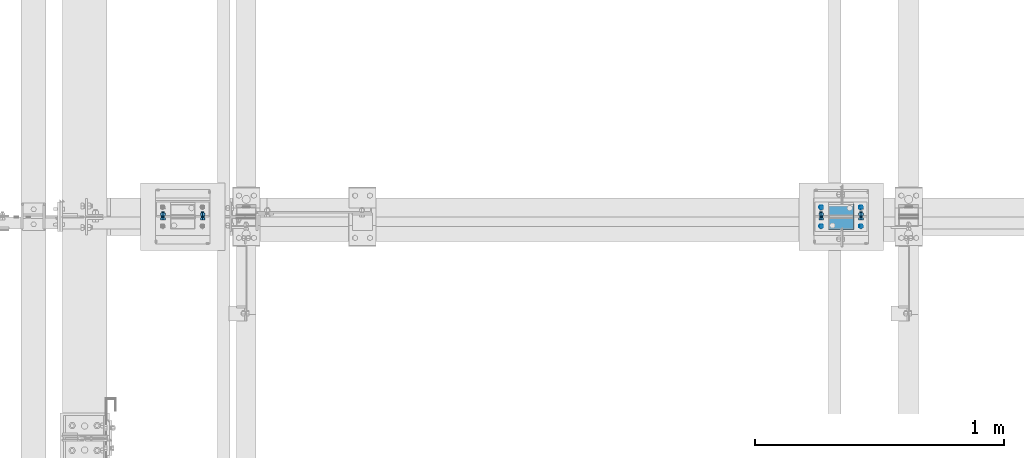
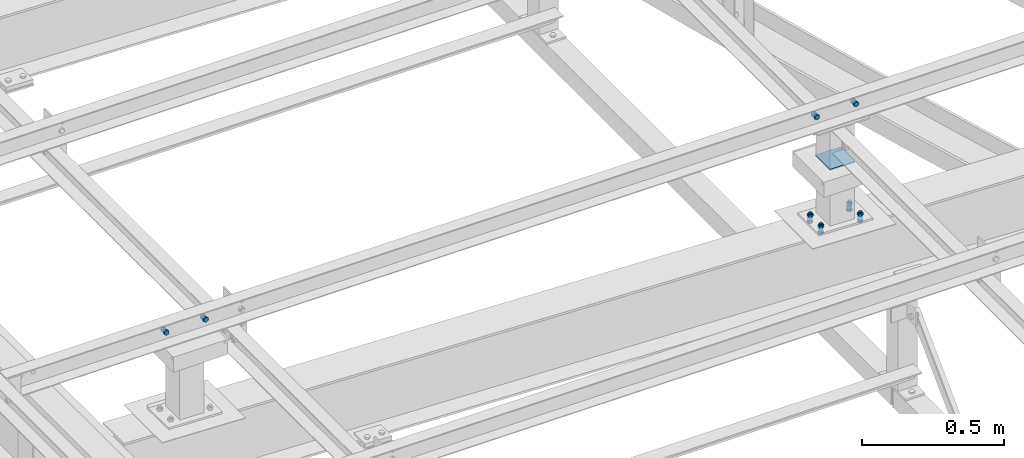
# One storey, part 46 of 3134: 5 mechanical fasteners, 4 elements without a shape of their own.
"""IFC2X3 building model written with IfcOpenShell, lengths in millimetres."""

from ifc_helpers import new_model, si_unit, frame, origin_with_axes, place, context, subcontext, project, spatial, faceted_brep, source, transform, mapped, material, type_object, element, aggregate, save


model = new_model("IFC2X3")

# Units and contexts
model_context = context("Model", 3, precision=1e-05, world=origin_with_axes())
body_context = subcontext(model_context, "Body", "Model", "MODEL_VIEW")
ifc_project = project(units=[si_unit("LENGTHUNIT", "METRE", prefix="MILLI"), si_unit("AREAUNIT", "SQUARE_METRE"), si_unit("VOLUMEUNIT", "CUBIC_METRE"), si_unit("MASSUNIT", "GRAM", prefix="KILO"), si_unit("TIMEUNIT", "SECOND"), si_unit("PLANEANGLEUNIT", "RADIAN"), si_unit("SOLIDANGLEUNIT", "STERADIAN"), si_unit("THERMODYNAMICTEMPERATUREUNIT", "DEGREE_CELSIUS"), si_unit("LUMINOUSINTENSITYUNIT", "LUMEN")], contexts=[model_context])

# Site, building, storey
site_placement = place(None, origin_with_axes())
site = spatial("IfcSite", under=ifc_project, at=site_placement, CompositionType="ELEMENT")
building_placement = place(site_placement, origin_with_axes())
building = spatial("IfcBuilding", under=site, at=building_placement, Name="Undefined", CompositionType="ELEMENT")
storey_placement = place(building_placement, origin_with_axes())
storey = spatial("IfcBuildingStorey", under=building, at=storey_placement, Name="Undefined", CompositionType="ELEMENT", Elevation=0.0)

# Assembly, mechanical fastener
assembly_1_placement = place(storey_placement, origin_with_axes())
assembly_1 = element("IfcElementAssembly", 1, at=assembly_1_placement, inside=storey, AssemblyPlace="NOTDEFINED", PredefinedType="RIGID_FRAME")
ifc_material_1 = material(Name="8.8")
mechanical_fastener_type = type_object("IfcMechanicalFastenerType", Name="Bolt assembly")
shared_shape_1 = source(origin_with_axes(), body_context, "Body", "Brep", [
    faceted_brep([(10.9696551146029, -4.1972538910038, 0.0), (5.48482755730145, -4.1972538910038, 9.5), (-5.48482755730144, -4.1972538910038, 9.5), (-10.9696551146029, -4.1972538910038, 1.34339530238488e-15), (-5.48482755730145, -4.1972538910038, -9.5), (5.48482755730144, -4.1972538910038, -9.50000000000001), (5.48482755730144, 3.8027461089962, -9.50000000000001), (-5.48482755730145, 3.8027461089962, -9.5), (-10.9696551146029, 3.8027461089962, 1.34339530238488e-15), (-5.48482755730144, 3.8027461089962, 9.5), (5.48482755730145, 3.8027461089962, 9.5), (10.9696551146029, 3.8027461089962, 0.0), (6.0, 3.8027461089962, 0.0), (5.19615242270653, 3.8027461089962, 3.00000000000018), (2.99999999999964, 3.8027461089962, 5.19615242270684), (-6.21801588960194e-13, 3.8027461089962, 6.0), (-3.00000000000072, 3.8027461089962, 5.19615242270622), (-5.19615242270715, 3.8027461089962, 2.9999999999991), (-6.0, 3.8027461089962, -1.24360317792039e-12), (-5.19615242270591, 3.8027461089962, -3.00000000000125), (-2.99999999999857, 3.8027461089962, -5.19615242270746), (1.85874342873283e-12, 3.8027461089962, -6.0), (3.00000000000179, 3.8027461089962, -5.1961524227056), (5.19615242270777, 3.8027461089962, -2.99999999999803), (5.19615242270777, 38.8027461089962, -2.99999999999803), (3.00000000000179, 38.8027461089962, -5.1961524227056), (1.85874342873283e-12, 38.8027461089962, -6.0), (-2.99999999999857, 38.8027461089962, -5.19615242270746), (-5.19615242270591, 38.8027461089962, -3.00000000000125), (-6.0, 38.8027461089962, -1.24360317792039e-12), (-5.19615242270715, 38.8027461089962, 2.9999999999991), (-3.00000000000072, 38.8027461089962, 5.19615242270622), (-6.21801588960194e-13, 38.8027461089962, 6.0), (2.99999999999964, 38.8027461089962, 5.19615242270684), (5.19615242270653, 38.8027461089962, 3.00000000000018), (6.0, 38.8027461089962, 0.0), (10.9696551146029, 23.0139082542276, 0.0), (5.48482755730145, 23.0139082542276, 9.5), (-5.48482755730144, 23.0139082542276, 9.5), (-10.9696551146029, 23.0139082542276, 1.34339530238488e-15), (-5.48482755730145, 23.0139082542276, -9.5), (5.48482755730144, 23.0139082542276, -9.50000000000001), (5.48482755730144, 33.0139082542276, -9.50000000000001), (-5.48482755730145, 33.0139082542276, -9.5), (-10.9696551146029, 33.0139082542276, 1.34339530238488e-15), (-5.48482755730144, 33.0139082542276, 9.5), (5.48482755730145, 33.0139082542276, 9.5), (10.9696551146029, 33.0139082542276, 0.0)], [[[0, 1, 2, 3, 4, 5]], [[6, 7, 8, 9, 10, 11]], [[0, 11, 10, 1]], [[1, 10, 9, 2]], [[2, 9, 8, 3]], [[3, 8, 7, 4]], [[4, 7, 6, 5]], [[5, 6, 11, 0]], [[12, 13, 14, 15, 16, 17, 18, 19, 20, 21, 22, 23]], [[24, 25, 26, 27, 28, 29, 30, 31, 32, 33, 34, 35]], [[12, 35, 34, 13]], [[13, 34, 33, 14]], [[14, 33, 32, 15]], [[15, 32, 31, 16]], [[16, 31, 30, 17]], [[17, 30, 29, 18]], [[18, 29, 28, 19]], [[19, 28, 27, 20]], [[20, 27, 26, 21]], [[21, 26, 25, 22]], [[22, 25, 24, 23]], [[23, 24, 35, 12]], [[36, 37, 38, 39, 40, 41]], [[42, 43, 44, 45, 46, 47]], [[36, 47, 46, 37]], [[37, 46, 45, 38]], [[38, 45, 44, 39]], [[39, 44, 43, 40]], [[40, 43, 42, 41]], [[41, 42, 47, 36]]]),
    faceted_brep([(7.0, 3.9027461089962, 0.0), (6.06217782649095, 3.9027461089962, 3.50000000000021), (3.49999999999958, 3.9027461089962, 6.06217782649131), (-7.25435187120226e-13, 3.9027461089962, 7.0), (-3.50000000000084, 3.9027461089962, 6.06217782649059), (-6.06217782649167, 3.9027461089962, 3.49999999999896), (-7.0, 3.9027461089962, -1.45087037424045e-12), (-6.06217782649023, 3.9027461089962, -3.50000000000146), (-3.49999999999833, 3.9027461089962, -6.06217782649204), (2.1685340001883e-12, 3.9027461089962, -7.0), (3.50000000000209, 3.9027461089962, -6.06217782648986), (6.0621778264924, 3.9027461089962, -3.4999999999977), (6.0621778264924, 13.1027459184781, -3.4999999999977), (3.50000000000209, 13.1027459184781, -6.06217782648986), (2.1685340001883e-12, 13.1027459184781, -7.0), (-3.49999999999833, 13.1027459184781, -6.06217782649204), (-6.06217782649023, 13.1027459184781, -3.50000000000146), (-7.0, 13.1027459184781, -1.45087037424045e-12), (-6.06217782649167, 13.1027459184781, 3.49999999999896), (-3.50000000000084, 13.1027459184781, 6.06217782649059), (-7.25435187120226e-13, 13.1027459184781, 7.0), (3.49999999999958, 13.1027459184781, 6.06217782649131), (6.06217782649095, 13.1027459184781, 3.50000000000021), (7.0, 13.1027459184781, 0.0), (7.0, 14.9139082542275, 0.0), (6.06217782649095, 14.9139082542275, 3.50000000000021), (3.49999999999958, 14.9139082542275, 6.06217782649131), (-7.25435187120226e-13, 14.9139082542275, 7.0), (-3.50000000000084, 14.9139082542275, 6.06217782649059), (-6.06217782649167, 14.9139082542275, 3.49999999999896), (-7.0, 14.9139082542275, -1.45087037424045e-12), (-6.06217782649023, 14.9139082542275, -3.50000000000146), (-3.49999999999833, 14.9139082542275, -6.06217782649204), (2.1685340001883e-12, 14.9139082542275, -7.0), (3.50000000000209, 14.9139082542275, -6.06217782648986), (6.0621778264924, 14.9139082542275, -3.4999999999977), (6.0621778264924, 23.0139082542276, -3.4999999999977), (3.50000000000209, 23.0139082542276, -6.06217782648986), (2.1685340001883e-12, 23.0139082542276, -7.0), (-3.49999999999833, 23.0139082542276, -6.06217782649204), (-6.06217782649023, 23.0139082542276, -3.50000000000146), (-7.0, 23.0139082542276, -1.45087037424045e-12), (-6.06217782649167, 23.0139082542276, 3.49999999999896), (-3.50000000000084, 23.0139082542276, 6.06217782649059), (-7.25435187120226e-13, 23.0139082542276, 7.0), (3.49999999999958, 23.0139082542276, 6.06217782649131), (6.06217782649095, 23.0139082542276, 3.50000000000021), (7.0, 23.0139082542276, 0.0)], [[[0, 1, 2, 3, 4, 5, 6, 7, 8, 9, 10, 11]], [[12, 13, 14, 15, 16, 17, 18, 19, 20, 21, 22, 23]], [[0, 23, 22, 1]], [[1, 22, 21, 2]], [[2, 21, 20, 3]], [[3, 20, 19, 4]], [[4, 19, 18, 5]], [[5, 18, 17, 6]], [[6, 17, 16, 7]], [[7, 16, 15, 8]], [[8, 15, 14, 9]], [[9, 14, 13, 10]], [[10, 13, 12, 11]], [[11, 12, 23, 0]], [[24, 25, 26, 27, 28, 29, 30, 31, 32, 33, 34, 35]], [[36, 37, 38, 39, 40, 41, 42, 43, 44, 45, 46, 47]], [[24, 47, 46, 25]], [[25, 46, 45, 26]], [[26, 45, 44, 27]], [[27, 44, 43, 28]], [[28, 43, 42, 29]], [[29, 42, 41, 30]], [[30, 41, 40, 31]], [[31, 40, 39, 32]], [[32, 39, 38, 33]], [[33, 38, 37, 34]], [[34, 37, 36, 35]], [[35, 36, 47, 24]]]),
])
mechanical_fastener_1_placement = place(assembly_1_placement, frame((3042.5231765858, 19487.9999999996, 3920.50000668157), z_axis=(-0.999387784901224, 0.0, 0.0349865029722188), x_axis=(0.0, -1.0, 0.0)))
mechanical_fastener_1 = element("IfcMechanicalFastener", 2, at=mechanical_fastener_1_placement, type_object=mechanical_fastener_type, material=ifc_material_1, Name="Bolt assembly", NominalDiameter=12.0, NominalLength=35.0, context=body_context, shape_type="MappedRepresentation", body=[
    mapped(shared_shape_1, transform((0.0, -5.32963895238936e-10, -79.9999999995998))),
    mapped(shared_shape_1, transform((76.0, -5.32963895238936e-10, -79.9999999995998))),
    mapped(shared_shape_1, transform((0.0, 5.3114490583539e-10, 79.9999999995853))),
    mapped(shared_shape_1, transform((76.0, 5.3114490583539e-10, 79.9999999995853))),
])

assembly_2_placement = place(storey_placement, origin_with_axes())
assembly_2 = element("IfcElementAssembly", 3, at=assembly_2_placement, inside=storey, AssemblyPlace="NOTDEFINED", PredefinedType="RIGID_FRAME")
shared_shape_2 = source(origin_with_axes(), body_context, "Body", "Brep", [
    faceted_brep([(7.0, 13.0000253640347, 0.0), (6.06217782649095, 13.0000253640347, 3.50000000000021), (3.49999999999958, 13.0000253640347, 6.06217782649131), (-7.25435187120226e-13, 13.0000253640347, 7.0), (-3.50000000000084, 13.0000253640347, 6.06217782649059), (-6.06217782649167, 13.0000253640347, 3.49999999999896), (-7.0, 13.0000253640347, -1.45087037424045e-12), (-6.06217782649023, 13.0000253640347, -3.50000000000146), (-3.49999999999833, 13.0000253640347, -6.06217782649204), (2.1685340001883e-12, 13.0000253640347, -7.0), (3.50000000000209, 13.0000253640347, -6.06217782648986), (6.0621778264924, 13.0000253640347, -3.4999999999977), (6.0621778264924, 15.0999999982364, -3.4999999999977), (3.50000000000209, 15.0999999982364, -6.06217782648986), (2.1685340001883e-12, 15.0999999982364, -7.0), (-3.49999999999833, 15.0999999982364, -6.06217782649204), (-6.06217782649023, 15.0999999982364, -3.50000000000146), (-7.0, 15.0999999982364, -1.45087037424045e-12), (-6.06217782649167, 15.0999999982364, 3.49999999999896), (-3.50000000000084, 15.0999999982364, 6.06217782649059), (-7.25435187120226e-13, 15.0999999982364, 7.0), (3.49999999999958, 15.0999999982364, 6.06217782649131), (6.06217782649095, 15.0999999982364, 3.50000000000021), (7.0, 15.0999999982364, 0.0)], [[[0, 1, 2, 3, 4, 5, 6, 7, 8, 9, 10, 11]], [[12, 13, 14, 15, 16, 17, 18, 19, 20, 21, 22, 23]], [[0, 23, 22, 1]], [[1, 22, 21, 2]], [[2, 21, 20, 3]], [[3, 20, 19, 4]], [[4, 19, 18, 5]], [[5, 18, 17, 6]], [[6, 17, 16, 7]], [[7, 16, 15, 8]], [[8, 15, 14, 9]], [[9, 14, 13, 10]], [[10, 13, 12, 11]], [[11, 12, 23, 0]]]),
])
mechanical_fastener_2_placement = place(assembly_2_placement, frame((3042.5231765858, 19487.9999999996, 3920.50000668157), z_axis=(-0.999387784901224, 0.0, 0.0349865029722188), x_axis=(0.0, -1.0, 0.0)))
mechanical_fastener_2 = element("IfcMechanicalFastener", 4, at=mechanical_fastener_2_placement, type_object=mechanical_fastener_type, material=ifc_material_1, Name="Bolt assembly", NominalDiameter=12.0, NominalLength=2.0, context=body_context, shape_type="MappedRepresentation", body=[
    mapped(shared_shape_2, transform((0.0, -5.32963895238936e-10, -79.9999999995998))),
    mapped(shared_shape_2, transform((76.0, -5.32963895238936e-10, -79.9999999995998))),
    mapped(shared_shape_2, transform((0.0, 5.3114490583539e-10, 79.9999999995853))),
    mapped(shared_shape_2, transform((76.0, 5.3114490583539e-10, 79.9999999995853))),
])
aggregate(assembly_2, [mechanical_fastener_2])

# Mechanical fastener
ifc_material_2 = material(Name="6.8")
shared_shape_3 = source(origin_with_axes(), body_context, "Body", "Brep", [
    faceted_brep([(51.5, 1.36424205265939e-12, 50.0), (51.3858192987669, 1.36424205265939e-12, 50.5740251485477), (51.0606601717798, 1.36424205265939e-12, 51.0606601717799), (50.5740251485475, 1.36424205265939e-12, 51.385819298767), (-50.0000000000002, 1.36424205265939e-12, 51.5), (-50.7500000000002, 1.36424205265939e-12, 51.2990381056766), (-51.2990381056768, 1.36424205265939e-12, 50.7499999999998), (-51.5, 1.36424205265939e-12, 49.9999999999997), (-51.5, 1.36424205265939e-12, -50.0000000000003), (-51.2990381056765, 1.36424205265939e-12, -50.7500000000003), (-50.7499999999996, 1.36424205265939e-12, -51.2990381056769), (-49.9999999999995, 1.36424205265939e-12, -51.5), (50.0000000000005, 1.36424205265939e-12, -51.5), (50.7500000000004, 1.36424205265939e-12, -51.2990381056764), (51.2990381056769, 1.36424205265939e-12, -50.7499999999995), (51.5, 1.36424205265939e-12, -49.9999999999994), (51.5, 5.10000000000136, -49.9999999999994), (51.2990381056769, 5.10000000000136, -50.7499999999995), (50.7500000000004, 5.10000000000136, -51.2990381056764), (50.0000000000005, 5.10000000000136, -51.5), (-49.9999999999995, 5.10000000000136, -51.5), (-50.7499999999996, 5.10000000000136, -51.2990381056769), (-51.2990381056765, 5.10000000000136, -50.7500000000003), (-51.5, 5.10000000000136, -50.0000000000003), (-51.5, 5.10000000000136, 49.9999999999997), (-51.2990381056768, 5.10000000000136, 50.7499999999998), (-50.7500000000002, 5.10000000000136, 51.2990381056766), (-50.0000000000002, 5.10000000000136, 51.5), (50.5740251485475, 5.10000000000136, 51.385819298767), (51.0606601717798, 5.10000000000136, 51.0606601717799), (51.3858192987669, 5.10000000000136, 50.5740251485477), (51.5, 5.10000000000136, 50.0)], [[[0, 1, 2, 3, 4, 5, 6, 7, 8, 9, 10, 11, 12, 13, 14, 15]], [[16, 17, 18, 19, 20, 21, 22, 23, 24, 25, 26, 27, 28, 29, 30, 31]], [[0, 31, 30, 1]], [[1, 30, 29, 2]], [[2, 29, 28, 3]], [[3, 28, 27, 4]], [[4, 27, 26, 5]], [[5, 26, 25, 6]], [[6, 25, 24, 7]], [[7, 24, 23, 8]], [[8, 23, 22, 9]], [[9, 22, 21, 10]], [[10, 21, 20, 11]], [[11, 20, 19, 12]], [[12, 19, 18, 13]], [[13, 18, 17, 14]], [[14, 17, 16, 15]], [[15, 16, 31, 0]]]),
])
mechanical_fastener_3_placement = place(assembly_1_placement, frame((3043.33, 19450.0, 4190.29), z_axis=(0.0, -1.0, 0.0), x_axis=(-1.0, 0.0, 0.0)))
mechanical_fastener_3 = element("IfcMechanicalFastener", 5, at=mechanical_fastener_3_placement, type_object=mechanical_fastener_type, material=ifc_material_2, Name="Bolt assembly", NominalDiameter=10.0, NominalLength=5.0, context=body_context, shape_type="MappedRepresentation", body=[
    mapped(shared_shape_3, transform((0.0, 0.0, 0.0))),
])

aggregate(assembly_1, [mechanical_fastener_1, mechanical_fastener_3])

# Assembly, mechanical fastener
assembly_3_placement = place(storey_placement, origin_with_axes())
assembly_3 = element("IfcElementAssembly", 6, at=assembly_3_placement, inside=storey, AssemblyPlace="NOTDEFINED", PredefinedType="RIGID_FRAME")
shared_shape_4 = source(origin_with_axes(), body_context, "Body", "Brep", [
    faceted_brep([(10.9696551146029, -12.0, 0.0), (5.48482755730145, -12.0, 9.5), (-5.48482755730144, -12.0, 9.5), (-10.9696551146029, -12.0, 1.34339530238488e-15), (-5.48482755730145, -12.0, -9.5), (5.48482755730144, -12.0, -9.50000000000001), (5.48482755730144, -4.0, -9.50000000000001), (-5.48482755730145, -4.0, -9.5), (-10.9696551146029, -4.0, 1.34339530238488e-15), (-5.48482755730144, -4.0, 9.5), (5.48482755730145, -4.0, 9.5), (10.9696551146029, -4.0, 0.0), (6.0, -4.0, 0.0), (5.19615242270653, -4.0, 3.00000000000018), (2.99999999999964, -4.0, 5.19615242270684), (-6.21801588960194e-13, -4.0, 6.0), (-3.00000000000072, -4.0, 5.19615242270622), (-5.19615242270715, -4.0, 2.9999999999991), (-6.0, -4.0, -1.24360317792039e-12), (-5.19615242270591, -4.0, -3.00000000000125), (-2.99999999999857, -4.0, -5.19615242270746), (1.85874342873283e-12, -4.0, -6.0), (3.00000000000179, -4.0, -5.1961524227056), (5.19615242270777, -4.0, -2.99999999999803), (5.19615242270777, 21.0, -2.99999999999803), (3.00000000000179, 21.0, -5.1961524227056), (1.85874342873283e-12, 21.0, -6.0), (-2.99999999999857, 21.0, -5.19615242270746), (-5.19615242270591, 21.0, -3.00000000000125), (-6.0, 21.0, -1.24360317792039e-12), (-5.19615242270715, 21.0, 2.9999999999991), (-3.00000000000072, 21.0, 5.19615242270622), (-6.21801588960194e-13, 21.0, 6.0), (2.99999999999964, 21.0, 5.19615242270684), (5.19615242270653, 21.0, 3.00000000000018), (6.0, 21.0, 0.0), (10.9696551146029, 6.00000000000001, 0.0), (5.48482755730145, 6.00000000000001, 9.5), (-5.48482755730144, 6.00000000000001, 9.5), (-10.9696551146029, 6.00000000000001, 1.34339530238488e-15), (-5.48482755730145, 6.00000000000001, -9.5), (5.48482755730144, 6.00000000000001, -9.50000000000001), (5.48482755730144, 16.0, -9.50000000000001), (-5.48482755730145, 16.0, -9.5), (-10.9696551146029, 16.0, 1.34339530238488e-15), (-5.48482755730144, 16.0, 9.5), (5.48482755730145, 16.0, 9.5), (10.9696551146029, 16.0, 0.0)], [[[0, 1, 2, 3, 4, 5]], [[6, 7, 8, 9, 10, 11]], [[0, 11, 10, 1]], [[1, 10, 9, 2]], [[2, 9, 8, 3]], [[3, 8, 7, 4]], [[4, 7, 6, 5]], [[5, 6, 11, 0]], [[12, 13, 14, 15, 16, 17, 18, 19, 20, 21, 22, 23]], [[24, 25, 26, 27, 28, 29, 30, 31, 32, 33, 34, 35]], [[12, 35, 34, 13]], [[13, 34, 33, 14]], [[14, 33, 32, 15]], [[15, 32, 31, 16]], [[16, 31, 30, 17]], [[17, 30, 29, 18]], [[18, 29, 28, 19]], [[19, 28, 27, 20]], [[20, 27, 26, 21]], [[21, 26, 25, 22]], [[22, 25, 24, 23]], [[23, 24, 35, 12]], [[36, 37, 38, 39, 40, 41]], [[42, 43, 44, 45, 46, 47]], [[36, 47, 46, 37]], [[37, 46, 45, 38]], [[38, 45, 44, 39]], [[39, 44, 43, 40]], [[40, 43, 42, 41]], [[41, 42, 47, 36]]]),
    faceted_brep([(7.0, -3.9, 0.0), (6.06217782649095, -3.9, 3.50000000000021), (3.49999999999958, -3.9, 6.06217782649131), (-7.25435187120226e-13, -3.9, 7.0), (-3.50000000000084, -3.9, 6.06217782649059), (-6.06217782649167, -3.9, 3.49999999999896), (-7.0, -3.9, -1.45087037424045e-12), (-6.06217782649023, -3.9, -3.50000000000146), (-3.49999999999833, -3.9, -6.06217782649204), (2.1685340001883e-12, -3.9, -7.0), (3.50000000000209, -3.9, -6.06217782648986), (6.0621778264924, -3.9, -3.4999999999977), (6.0621778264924, 0.0999999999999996, -3.4999999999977), (3.50000000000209, 0.0999999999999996, -6.06217782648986), (2.1685340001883e-12, 0.0999999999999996, -7.0), (-3.49999999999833, 0.0999999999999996, -6.06217782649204), (-6.06217782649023, 0.0999999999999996, -3.50000000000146), (-7.0, 0.0999999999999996, -1.45087037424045e-12), (-6.06217782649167, 0.0999999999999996, 3.49999999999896), (-3.50000000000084, 0.0999999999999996, 6.06217782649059), (-7.25435187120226e-13, 0.0999999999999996, 7.0), (3.49999999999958, 0.0999999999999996, 6.06217782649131), (6.06217782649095, 0.0999999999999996, 3.50000000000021), (7.0, 0.0999999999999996, 0.0), (7.0, -0.1, 0.0), (6.06217782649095, -0.1, 3.50000000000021), (3.49999999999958, -0.1, 6.06217782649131), (-7.25435187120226e-13, -0.1, 7.0), (-3.50000000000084, -0.1, 6.06217782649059), (-6.06217782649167, -0.1, 3.49999999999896), (-7.0, -0.1, -1.45087037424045e-12), (-6.06217782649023, -0.1, -3.50000000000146), (-3.49999999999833, -0.1, -6.06217782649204), (2.1685340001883e-12, -0.1, -7.0), (3.50000000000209, -0.1, -6.06217782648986), (6.0621778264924, -0.1, -3.4999999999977), (6.0621778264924, 6.00000000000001, -3.4999999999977), (3.50000000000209, 6.00000000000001, -6.06217782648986), (2.1685340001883e-12, 6.00000000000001, -7.0), (-3.49999999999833, 6.00000000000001, -6.06217782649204), (-6.06217782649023, 6.00000000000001, -3.50000000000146), (-7.0, 6.00000000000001, -1.45087037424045e-12), (-6.06217782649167, 6.00000000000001, 3.49999999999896), (-3.50000000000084, 6.00000000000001, 6.06217782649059), (-7.25435187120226e-13, 6.00000000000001, 7.0), (3.49999999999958, 6.00000000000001, 6.06217782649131), (6.06217782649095, 6.00000000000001, 3.50000000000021), (7.0, 6.00000000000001, 0.0)], [[[0, 1, 2, 3, 4, 5, 6, 7, 8, 9, 10, 11]], [[12, 13, 14, 15, 16, 17, 18, 19, 20, 21, 22, 23]], [[0, 23, 22, 1]], [[1, 22, 21, 2]], [[2, 21, 20, 3]], [[3, 20, 19, 4]], [[4, 19, 18, 5]], [[5, 18, 17, 6]], [[6, 17, 16, 7]], [[7, 16, 15, 8]], [[8, 15, 14, 9]], [[9, 14, 13, 10]], [[10, 13, 12, 11]], [[11, 12, 23, 0]], [[24, 25, 26, 27, 28, 29, 30, 31, 32, 33, 34, 35]], [[36, 37, 38, 39, 40, 41, 42, 43, 44, 45, 46, 47]], [[24, 47, 46, 25]], [[25, 46, 45, 26]], [[26, 45, 44, 27]], [[27, 44, 43, 28]], [[28, 43, 42, 29]], [[29, 42, 41, 30]], [[30, 41, 40, 31]], [[31, 40, 39, 32]], [[32, 39, 38, 33]], [[33, 38, 37, 34]], [[34, 37, 36, 35]], [[35, 36, 47, 24]]]),
])
mechanical_fastener_4_placement = place(assembly_3_placement, frame((394.999950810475, 19449.999683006, 4400.0), z_axis=(1.0, 0.0, 0.0), x_axis=(0.0, 0.0, -1.0)))
mechanical_fastener_4 = element("IfcMechanicalFastener", 7, at=mechanical_fastener_4_placement, type_object=mechanical_fastener_type, material=ifc_material_1, Name="Bolt assembly", NominalDiameter=12.0, NominalLength=25.0, context=body_context, shape_type="MappedRepresentation", body=[
    mapped(shared_shape_4, transform((0.0, -5.32963895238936e-10, -79.9999999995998))),
    mapped(shared_shape_4, transform((0.0, 5.3114490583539e-10, 79.9999999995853))),
])
aggregate(assembly_3, [mechanical_fastener_4])

assembly_4_placement = place(storey_placement, origin_with_axes())
assembly_4 = element("IfcElementAssembly", 8, at=assembly_4_placement, inside=storey, AssemblyPlace="NOTDEFINED", PredefinedType="RIGID_FRAME")
shared_shape_5 = source(origin_with_axes(), body_context, "Body", "Brep", [
    faceted_brep([(10.9696551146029, -12.0003169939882, 0.0), (5.48482755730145, -12.0003169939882, 9.5), (-5.48482755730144, -12.0003169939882, 9.5), (-10.9696551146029, -12.0003169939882, 1.34339530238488e-15), (-5.48482755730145, -12.0003169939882, -9.5), (5.48482755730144, -12.0003169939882, -9.50000000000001), (5.48482755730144, -4.00031699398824, -9.50000000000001), (-5.48482755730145, -4.00031699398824, -9.5), (-10.9696551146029, -4.00031699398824, 1.34339530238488e-15), (-5.48482755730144, -4.00031699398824, 9.5), (5.48482755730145, -4.00031699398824, 9.5), (10.9696551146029, -4.00031699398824, 0.0), (6.0, -4.00031699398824, 0.0), (5.19615242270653, -4.00031699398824, 3.00000000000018), (2.99999999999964, -4.00031699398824, 5.19615242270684), (-6.21801588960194e-13, -4.00031699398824, 6.0), (-3.00000000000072, -4.00031699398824, 5.19615242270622), (-5.19615242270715, -4.00031699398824, 2.9999999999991), (-6.0, -4.00031699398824, -1.24360317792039e-12), (-5.19615242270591, -4.00031699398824, -3.00000000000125), (-2.99999999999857, -4.00031699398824, -5.19615242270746), (1.85874342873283e-12, -4.00031699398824, -6.0), (3.00000000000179, -4.00031699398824, -5.1961524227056), (5.19615242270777, -4.00031699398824, -2.99999999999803), (5.19615242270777, 20.9997148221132, -2.99999999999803), (3.00000000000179, 20.9997148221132, -5.1961524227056), (1.85874342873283e-12, 20.9997148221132, -6.0), (-2.99999999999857, 20.9997148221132, -5.19615242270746), (-5.19615242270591, 20.9997148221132, -3.00000000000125), (-6.0, 20.9997148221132, -1.24360317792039e-12), (-5.19615242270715, 20.9997148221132, 2.9999999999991), (-3.00000000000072, 20.9997148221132, 5.19615242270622), (-6.21801588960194e-13, 20.9997148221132, 6.0), (2.99999999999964, 20.9997148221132, 5.19615242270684), (5.19615242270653, 20.9997148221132, 3.00000000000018), (6.0, 20.9997148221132, 0.0), (10.9696551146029, 6.00000000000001, 0.0), (5.48482755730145, 6.00000000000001, 9.5), (-5.48482755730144, 6.00000000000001, 9.5), (-10.9696551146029, 6.00000000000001, 1.34339530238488e-15), (-5.48482755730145, 6.00000000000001, -9.5), (5.48482755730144, 6.00000000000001, -9.50000000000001), (5.48482755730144, 16.0, -9.50000000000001), (-5.48482755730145, 16.0, -9.5), (-10.9696551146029, 16.0, 1.34339530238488e-15), (-5.48482755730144, 16.0, 9.5), (5.48482755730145, 16.0, 9.5), (10.9696551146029, 16.0, 0.0)], [[[0, 1, 2, 3, 4, 5]], [[6, 7, 8, 9, 10, 11]], [[0, 11, 10, 1]], [[1, 10, 9, 2]], [[2, 9, 8, 3]], [[3, 8, 7, 4]], [[4, 7, 6, 5]], [[5, 6, 11, 0]], [[12, 13, 14, 15, 16, 17, 18, 19, 20, 21, 22, 23]], [[24, 25, 26, 27, 28, 29, 30, 31, 32, 33, 34, 35]], [[12, 35, 34, 13]], [[13, 34, 33, 14]], [[14, 33, 32, 15]], [[15, 32, 31, 16]], [[16, 31, 30, 17]], [[17, 30, 29, 18]], [[18, 29, 28, 19]], [[19, 28, 27, 20]], [[20, 27, 26, 21]], [[21, 26, 25, 22]], [[22, 25, 24, 23]], [[23, 24, 35, 12]], [[36, 37, 38, 39, 40, 41]], [[42, 43, 44, 45, 46, 47]], [[36, 47, 46, 37]], [[37, 46, 45, 38]], [[38, 45, 44, 39]], [[39, 44, 43, 40]], [[40, 43, 42, 41]], [[41, 42, 47, 36]]]),
    faceted_brep([(7.0, -3.90031233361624, 0.0), (6.06217782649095, -3.90027629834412, 3.50000000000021), (3.49999999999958, -3.90031233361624, 6.06217782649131), (-7.25435187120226e-13, -3.90027629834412, 7.0), (-3.50000000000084, -3.90027629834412, 6.06217782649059), (-6.06217782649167, -3.90027629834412, 3.49999999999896), (-7.0, -3.90031233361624, -1.45087037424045e-12), (-6.06217782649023, -3.90027629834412, -3.50000000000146), (-3.49999999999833, -3.90027629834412, -6.06217782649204), (2.1685340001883e-12, -3.90027629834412, -7.0), (3.50000000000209, -3.90027629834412, -6.06217782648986), (6.0621778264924, -3.90031233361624, -3.4999999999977), (6.0621778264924, 0.0996830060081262, -3.4999999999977), (3.50000000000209, 0.0996830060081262, -6.06217782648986), (2.1685340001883e-12, 0.0996830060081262, -7.0), (-3.49999999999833, 0.0996830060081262, -6.06217782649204), (-6.06217782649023, 0.0996830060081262, -3.50000000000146), (-7.0, 0.0996830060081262, -1.45087037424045e-12), (-6.06217782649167, 0.0997148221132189, 3.49999999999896), (-3.50000000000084, 0.0997148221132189, 6.06217782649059), (-7.25435187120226e-13, 0.0996830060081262, 7.0), (3.49999999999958, 0.0996830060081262, 6.06217782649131), (6.06217782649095, 0.0996830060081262, 3.50000000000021), (7.0, 0.0997148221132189, 0.0), (7.0, -0.1, 0.0), (6.06217782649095, -0.1, 3.50000000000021), (3.49999999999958, -0.1, 6.06217782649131), (-7.25435187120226e-13, -0.1, 7.0), (-3.50000000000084, -0.1, 6.06217782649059), (-6.06217782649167, -0.1, 3.49999999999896), (-7.0, -0.1, -1.45087037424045e-12), (-6.06217782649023, -0.1, -3.50000000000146), (-3.49999999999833, -0.1, -6.06217782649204), (2.1685340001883e-12, -0.1, -7.0), (3.50000000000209, -0.1, -6.06217782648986), (6.0621778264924, -0.1, -3.4999999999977), (6.0621778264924, 6.00000000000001, -3.4999999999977), (3.50000000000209, 6.00000000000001, -6.06217782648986), (2.1685340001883e-12, 6.00000000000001, -7.0), (-3.49999999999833, 6.00000000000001, -6.06217782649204), (-6.06217782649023, 6.00000000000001, -3.50000000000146), (-7.0, 6.00000000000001, -1.45087037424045e-12), (-6.06217782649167, 6.00000000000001, 3.49999999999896), (-3.50000000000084, 6.00000000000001, 6.06217782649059), (-7.25435187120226e-13, 6.00000000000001, 7.0), (3.49999999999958, 6.00000000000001, 6.06217782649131), (6.06217782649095, 6.00000000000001, 3.50000000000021), (7.0, 6.00000000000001, 0.0)], [[[0, 1, 2, 3, 4, 5, 6, 7, 8, 9, 10, 11]], [[12, 13, 14, 15, 16, 17, 18, 19, 20, 21, 22, 23]], [[0, 23, 22, 1]], [[1, 22, 21, 2]], [[2, 21, 20, 3]], [[3, 20, 19, 4]], [[4, 19, 18, 5]], [[5, 18, 17, 6]], [[6, 17, 16, 7]], [[7, 16, 15, 8]], [[8, 15, 14, 9]], [[9, 14, 13, 10]], [[10, 13, 12, 11]], [[11, 12, 23, 0]], [[24, 25, 26, 27, 28, 29, 30, 31, 32, 33, 34, 35]], [[36, 37, 38, 39, 40, 41, 42, 43, 44, 45, 46, 47]], [[24, 47, 46, 25]], [[25, 46, 45, 26]], [[26, 45, 44, 27]], [[27, 44, 43, 28]], [[28, 43, 42, 29]], [[29, 42, 41, 30]], [[30, 41, 40, 31]], [[31, 40, 39, 32]], [[32, 39, 38, 33]], [[33, 38, 37, 34]], [[34, 37, 36, 35]], [[35, 36, 47, 24]]]),
])
mechanical_fastener_5_placement = place(assembly_4_placement, frame((3043.33, 19450.0, 4400.0), z_axis=(1.0, 0.0, 0.0), x_axis=(0.0, 0.0, -1.0)))
mechanical_fastener_5 = element("IfcMechanicalFastener", 9, at=mechanical_fastener_5_placement, type_object=mechanical_fastener_type, material=ifc_material_1, Name="Bolt assembly", NominalDiameter=12.0, NominalLength=25.0, context=body_context, shape_type="MappedRepresentation", body=[
    mapped(shared_shape_5, transform((0.0, -5.32963895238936e-10, -79.9999999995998))),
    mapped(shared_shape_5, transform((0.0, 5.3114490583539e-10, 79.9999999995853))),
])
aggregate(assembly_4, [mechanical_fastener_5])

save(model, "model.ifc")
